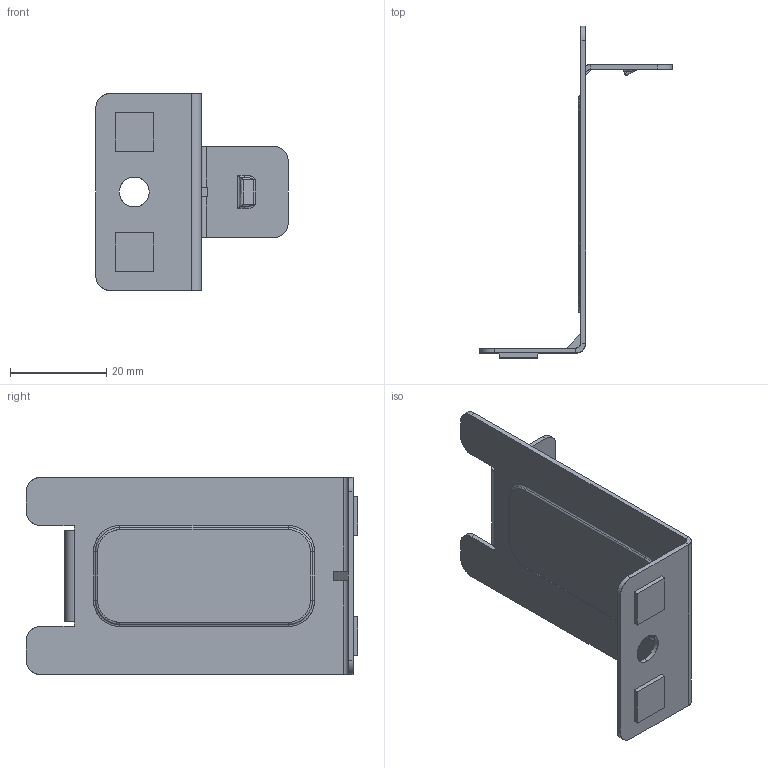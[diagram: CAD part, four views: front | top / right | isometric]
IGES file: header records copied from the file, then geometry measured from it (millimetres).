
Start section: SolidWorks IGES file using analytic representation for surfaces
Global section: file name: F:\GVD ÝÞ TAKÝBÝ\sac kalýplarý\sac kalýp parçalarý\öncelikli yapýlacak\kesinleþeler\11-PMD otomat ray mont aprt.IGS; native system: SolidWorks 2010; preprocessor: SolidWorks 2010; author: Tamer; date: 110118.105809; units: millimetre
Bounding box: 40 x 69 x 41 mm (x, y, z)
Surface area: 7951.1 mm2 (no closed solid volume)
Topology: 0 solids, 0 shells, 113 faces, 972 edges, 972 vertices
Faces by surface type: bspline 74, revolution 39
